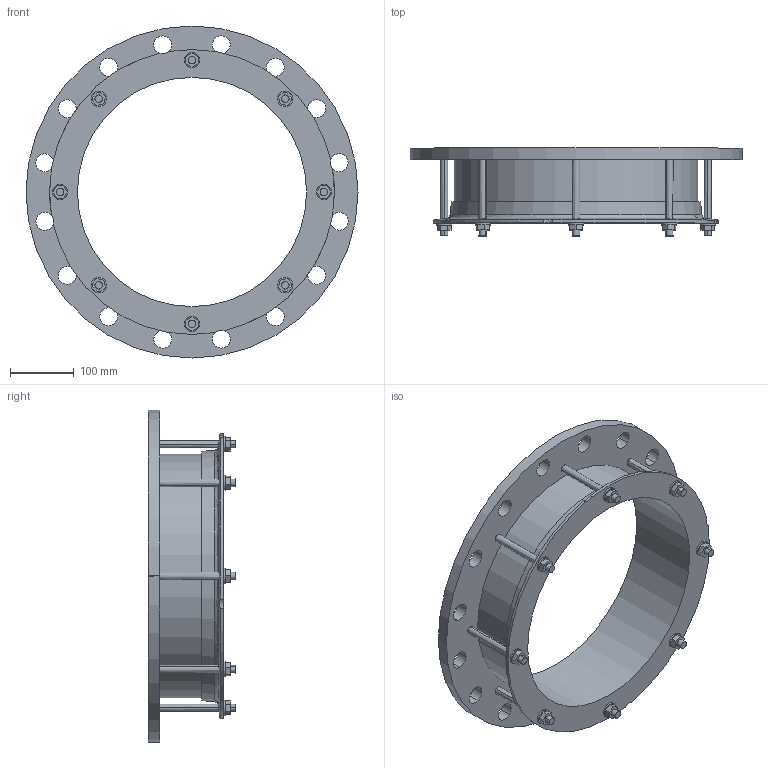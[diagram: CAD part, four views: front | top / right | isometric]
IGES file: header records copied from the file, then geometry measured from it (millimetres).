
Start section:  PTC IGES file: 355x350pn16_4not.igs
Global section: file name: 355x350pn16_4not.igs; native system: Creo Parametric by PTC Inc.; preprocessor: 2016130; author: mfairey; organization: Unknown; date: 20190116.092014; units: millimetre
Bounding box: 520 x 137.45 x 520 mm (x, y, z)
Surface area: 622362.7 mm2 (no closed solid volume)
Topology: 0 solids, 0 shells, 176 faces, 932 edges, 932 vertices
Faces by surface type: revolution 100, bspline 76
